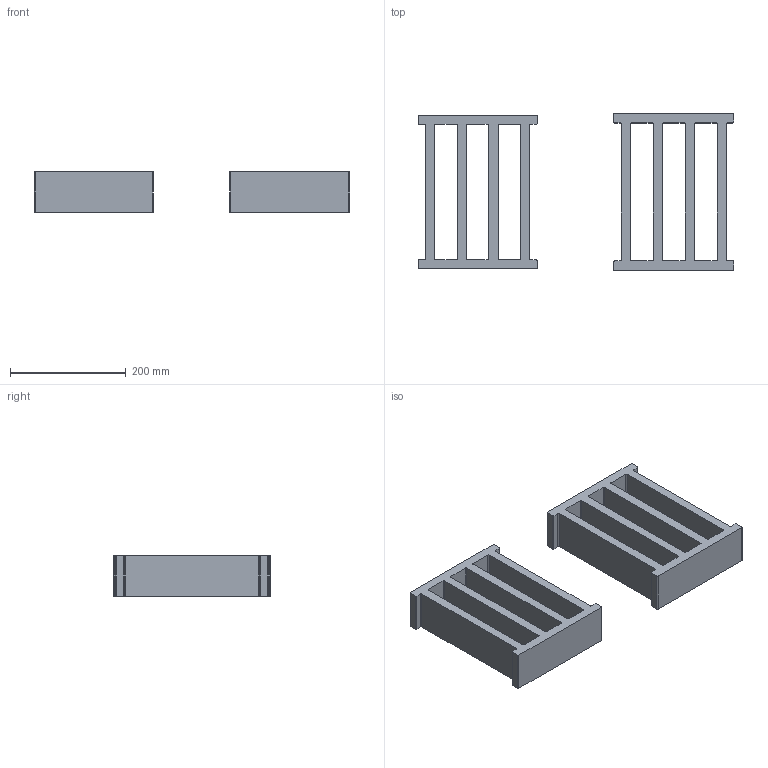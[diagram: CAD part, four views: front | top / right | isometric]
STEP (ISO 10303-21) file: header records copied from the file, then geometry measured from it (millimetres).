
FILE_DESCRIPTION(/* description */ (''),/* implementation_level */ '2;1');
FILE_NAME(/* name */ 'EMPURIES_FERRES_3FORATS',/* time_stamp */ '2023-11-02T16:00:55+01:00',/* author */ (''),/* organization */ (''),/* preprocessor_version */ 'ST-DEVELOPER v16.5',/* originating_system */ 'Rhino 7.15',/* authorisation */ '');
FILE_SCHEMA (('AUTOMOTIVE_DESIGN'));
Length unit declared in the file: millimetre
Products named in the file (1): Document
Bounding box: 544.12 x 270 x 70 mm (x, y, z)
Volume: 3017568.3 mm3; surface area: 454564.9 mm2
Topology: 2 solids, 2 shells, 100 faces, 288 edges, 192 vertices
Faces by surface type: plane 52, cylinder 24, bspline 24
Entity records: 2835 total; most frequent: CARTESIAN_POINT 1182, ORIENTED_EDGE 576, EDGE_CURVE 288, VERTEX_POINT 192, EDGE_LOOP 112, ADVANCED_FACE 100, FACE_OUTER_BOUND 100, DIRECTION 80
